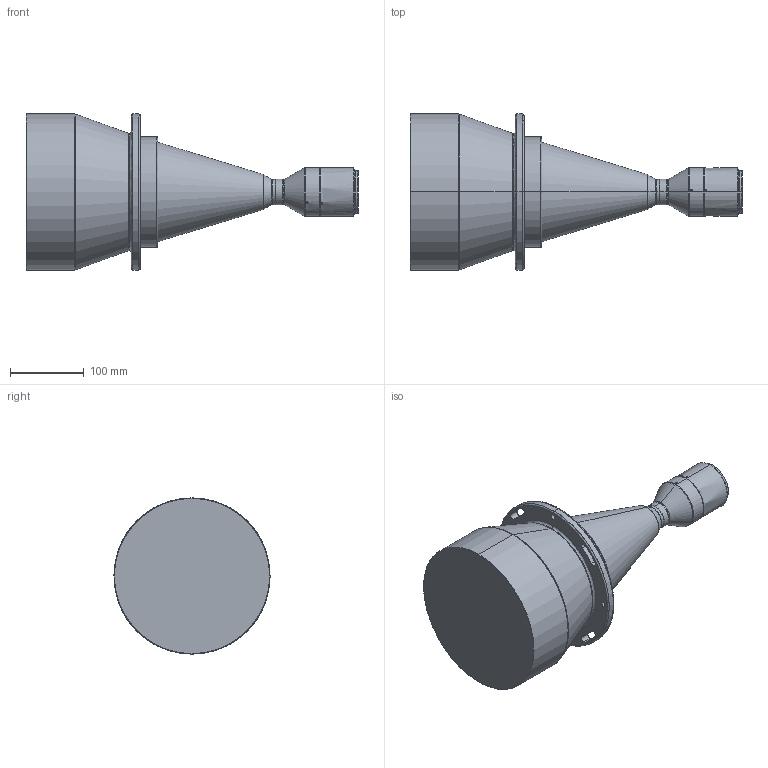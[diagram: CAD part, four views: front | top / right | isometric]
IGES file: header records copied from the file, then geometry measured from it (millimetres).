
Start section: SolidWorks IGES file using analytic representation for surfaces
Global section: file name: D:\撮扲窒\3D俋倛芞\3D   igs\DTCM\DTCM430\DTCM430-170-M58-AL.IGS; native system: SolidWorks 2012; preprocessor: SolidWorks 2012; author: ZXC; date: 181026.163811; units: millimetre
Bounding box: 450.9 x 212 x 212 mm (x, y, z)
Surface area: 255283.8 mm2 (no closed solid volume)
Topology: 0 solids, 0 shells, 126 faces, 2644 edges, 2632 vertices
Faces by surface type: revolution 96, bspline 30
